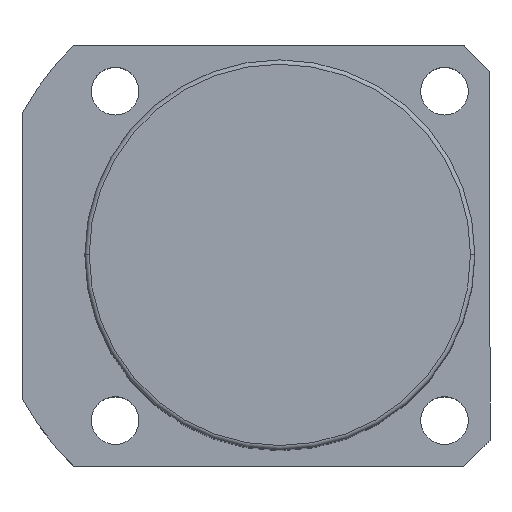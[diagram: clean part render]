
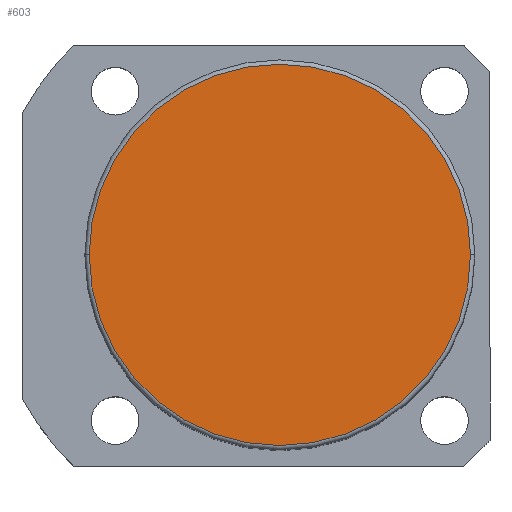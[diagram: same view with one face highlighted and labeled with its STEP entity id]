
A CAD part, top view. The second image highlights one B-rep face of the part: STEP entity #603.
In plain terms, the highlighted planar face has unit normal (0, 0, 1).
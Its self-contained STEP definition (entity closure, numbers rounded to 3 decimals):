
#1 = DIRECTION ( 'NONE',  ( 0., 0., 1. ) ) ;
#63 = AXIS2_PLACEMENT_3D ( 'NONE', #794, #243, #1220 ) ;
#139 = CARTESIAN_POINT ( 'NONE',  ( 0., 0., 146.5 ) ) ;
#145 = DIRECTION ( 'NONE',  ( 1., 0., 0. ) ) ;
#173 = EDGE_CURVE ( 'NONE', #677, #301, #287, .T. ) ;
#186 = AXIS2_PLACEMENT_3D ( 'NONE', #139, #1, #145 ) ;
#243 = DIRECTION ( 'NONE',  ( 0., 0., 1. ) ) ;
#287 = CIRCLE ( 'NONE', #186, 44. ) ;
#301 = VERTEX_POINT ( 'NONE', #1141 ) ;
#603 = ADVANCED_FACE ( 'NONE', ( #1616 ), #658, .T. ) ;
#658 = PLANE ( 'NONE',  #63 ) ;
#676 = CARTESIAN_POINT ( 'NONE',  ( 0., 0., 146.5 ) ) ;
#677 = VERTEX_POINT ( 'NONE', #1095 ) ;
#793 = ORIENTED_EDGE ( 'NONE', *, *, #173, .T. ) ;
#794 = CARTESIAN_POINT ( 'NONE',  ( 0., 0., 146.5 ) ) ;
#1002 = ORIENTED_EDGE ( 'NONE', *, *, #1761, .T. ) ;
#1095 = CARTESIAN_POINT ( 'NONE',  ( 44., 0., 146.5 ) ) ;
#1141 = CARTESIAN_POINT ( 'NONE',  ( -44., 0., 146.5 ) ) ;
#1220 = DIRECTION ( 'NONE',  ( 1., 0., 0. ) ) ;
#1224 = DIRECTION ( 'NONE',  ( 0., 0., 1. ) ) ;
#1238 = CIRCLE ( 'NONE', #1640, 44. ) ;
#1616 = FACE_OUTER_BOUND ( 'NONE', #1644, .T. ) ;
#1640 = AXIS2_PLACEMENT_3D ( 'NONE', #676, #1224, #1800 ) ;
#1644 = EDGE_LOOP ( 'NONE', ( #793, #1002 ) ) ;
#1761 = EDGE_CURVE ( 'NONE', #301, #677, #1238, .T. ) ;
#1800 = DIRECTION ( 'NONE',  ( 1., 0., 0. ) ) ;
